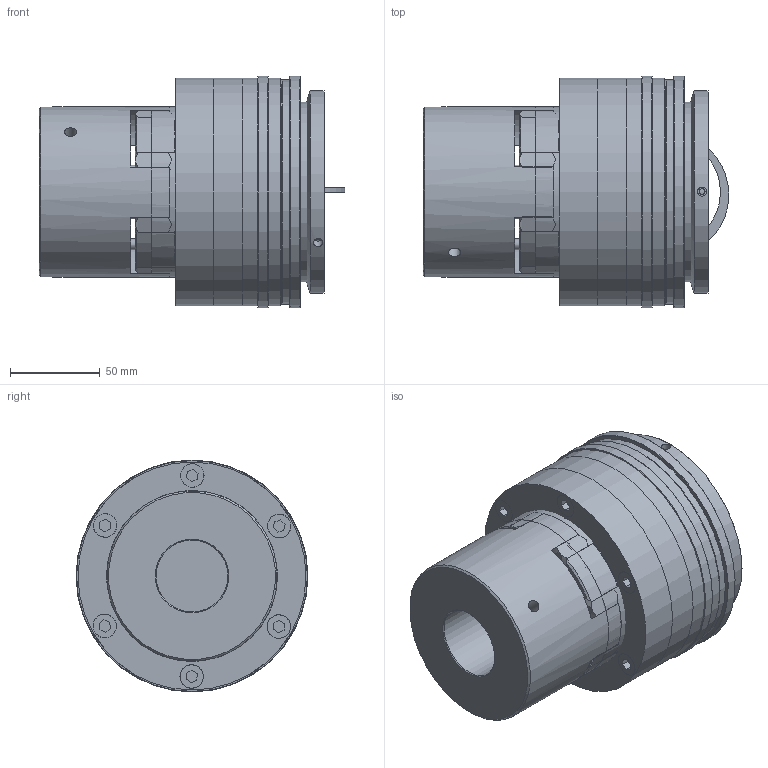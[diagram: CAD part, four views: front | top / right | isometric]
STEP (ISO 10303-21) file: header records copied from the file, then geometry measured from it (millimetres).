
FILE_DESCRIPTION( ( 'Unknown' ), '1' );
FILE_NAME( 'K:/Daten/homepage/cad - homepage/KBK-E-PP/KBK EPP-42.stp', 'Unknown', ( 'Unknown' ), ( 'Unknown' ), 'XStep 1.0', 'Unknown', ' ' );
FILE_SCHEMA( ( 'automotive_design' ) );
Length unit declared in the file: millimetre
Products named in the file (15): Assem1; Assem2; Assem3; ball_bearing_-_6013_0_01; ball_bearing_-_6013_0_02; ball_bearing_-_6013_0_03; Zylinderschraube DIN 912_2; KBK L-P-500 Grundkörper; Stellring 500; Druckring 500; Flansch 500; a_65; KBE1-42 Nabe; Zahnkranz 42; Elastormerflansch 42
Bounding box: 170.29 x 129 x 129 mm (x, y, z)
Volume: 2586500.5 mm3; surface area: 552898.4 mm2
Topology: 33 solids, 33 shells, 745 faces, 1676 edges, 1081 vertices
Faces by surface type: cylinder 292, plane 230, cone 192, torus 31
Full cylindrical faces by diameter (mm): 3 x4, 3.242 x6, 5.1 x6, 5.2 x6, 6 x16, 6.647 x14, 8 x8, 8.2 x12, 13 x8, 13.1 x12, 40 x4, 46 x4, 62 x2, 65 x7, 76.3 x6, 86 x4, 89.1 x6, 91 x2, 95 x2, 100 x7, 104.5 x2, 113 x2, 114 x2, 125 x4, 127 x2, 129 x2
Entity records: 9390 total; most frequent: CARTESIAN_POINT 2151, DIRECTION 1564, ORIENTED_EDGE 1200, AXIS2_PLACEMENT_3D 723, EDGE_CURVE 600, EDGE_LOOP 508, VERTEX_POINT 442, FACE_OUTER_BOUND 401
